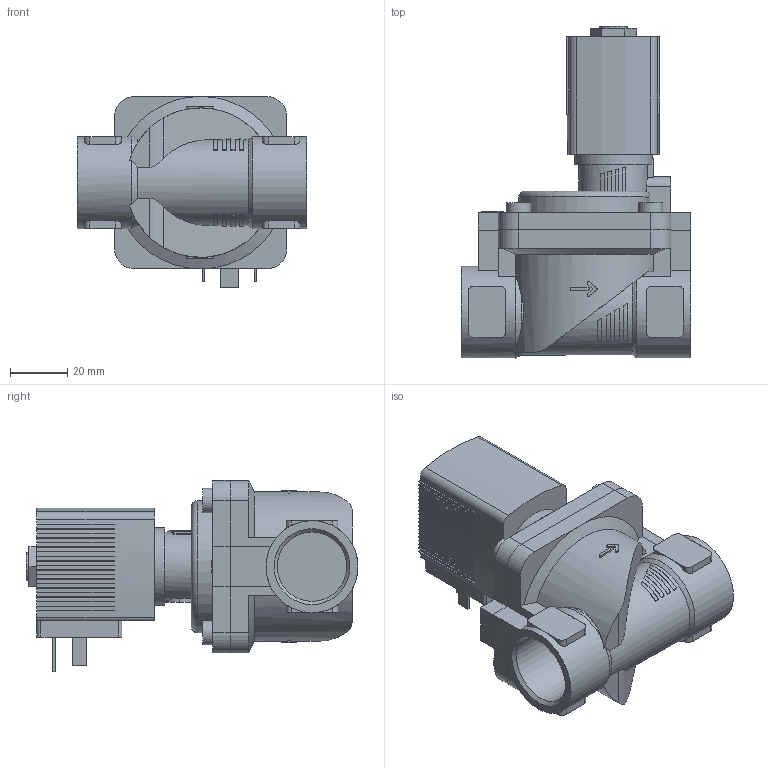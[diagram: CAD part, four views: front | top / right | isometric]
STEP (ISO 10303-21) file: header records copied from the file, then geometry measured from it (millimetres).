
FILE_DESCRIPTION(/* description */ ('STEP AP214'),/* implementation_level */ '2;1');
FILE_NAME(/* name */ '6281-252463-2_2-Way_Solenoid_Valve__Servo-assisted__General_Purpose',/* time_stamp */ '2024-05-20T13:41:59+02:00',/* author */ ('License CC BY-ND 4.0'),/* organization */ ('CADENAS'),/* preprocessor_version */ 'ST-DEVELOPER v19.3',/* originating_system */ 'PARTsolutions',/* authorisation */ ' ');
FILE_SCHEMA (('AUTOMOTIVE_DESIGN {1 0 10303 214 3 1 1}'));
Length unit declared in the file: millimetre
Products named in the file (4): 6281-252463-2/2-Way Solenoid Valve, Servo-assisted, General Purpose; 5281ev200MS2/2-Wege-Magnetventil mit Servomembran-Deckel   ; 6213-20G3/4MS-Gehaeuse-; AC10ex-5OO-Plan-Coil
Assembly tree (3 placements, depth 2):
  6281-252463-2/2-Way Solenoid Valve, Servo-assisted, General Purpose
    5281ev200MS2/2-Wege-Magnetventil mit Servomembran-Deckel   
    6213-20G3/4MS-Gehaeuse-
    AC10ex-5OO-Plan-Coil
Bounding box: 80 x 115.5 x 66.5 mm (x, y, z)
Volume: 197638.9 mm3; surface area: 43096.1 mm2
Topology: 3 solids, 3 shells, 530 faces, 1463 edges, 970 vertices
Faces by surface type: plane 428, cylinder 86, cone 15, torus 1
Full cylindrical faces by diameter (mm): 2.013 x1, 8.5 x4, 9.74 x1, 24.117 x2, 27 x1, 32 x1
Entity records: 19458 total; most frequent: CARTESIAN_POINT 3193, ORIENTED_EDGE 2886, DIRECTION 2764, EDGE_CURVE 1443, LINE 1060, VECTOR 1060, VERTEX_POINT 963, AXIS2_PLACEMENT_3D 852
